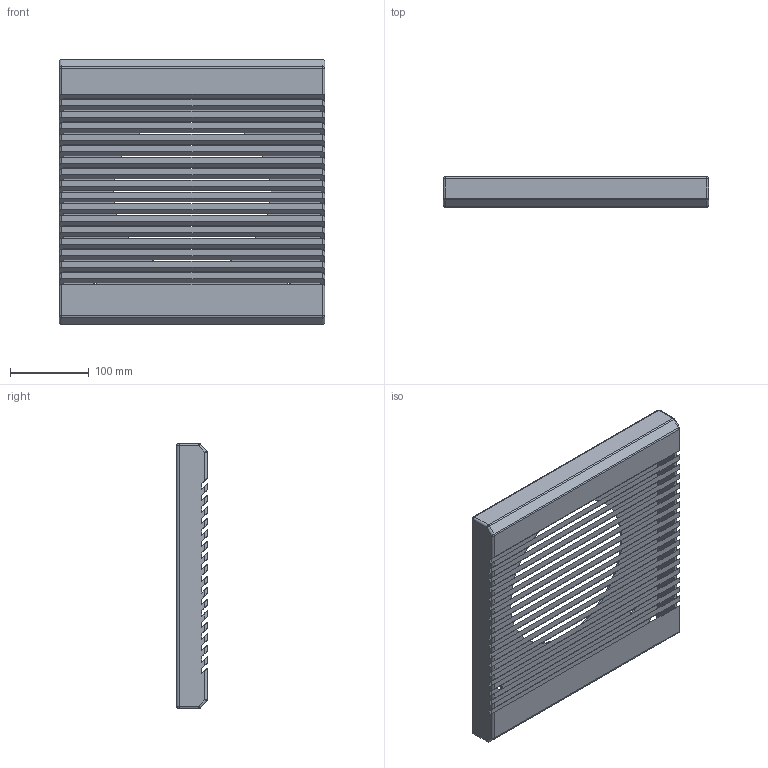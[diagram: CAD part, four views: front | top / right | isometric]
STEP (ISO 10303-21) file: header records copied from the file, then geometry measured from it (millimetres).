
FILE_DESCRIPTION(/* description */ (''),/* implementation_level */ '2;1');
FILE_NAME(/* name */ 'Z:\Output\LF_250-00744-005.stp',/* time_stamp */ '2017-07-19T13:37:06+02:00',/* author */ ('engineering1'),/* organization */ (''),/* preprocessor_version */ 'ST-DEVELOPER v16.5',/* originating_system */ 'Autodesk Inventor 2017',/* authorisation */ '');
FILE_SCHEMA (('AUTOMOTIVE_DESIGN { 1 0 10303 214 3 1 1 }'));
Length unit declared in the file: millimetre
Products named in the file (1): LF-1
Bounding box: 337 x 39 x 337 mm (x, y, z)
Volume: 717310.6 mm3; surface area: 463875.5 mm2
Topology: 1 solids, 1 shells, 203 faces, 675 edges, 438 vertices
Faces by surface type: plane 130, cylinder 61, sphere 12
Full cylindrical faces by diameter (mm): 200 x1
Entity records: 7408 total; most frequent: ORIENTED_EDGE 1348, CARTESIAN_POINT 1316, DIRECTION 1204, EDGE_CURVE 674, LINE 552, VECTOR 552, VERTEX_POINT 438, AXIS2_PLACEMENT_3D 326
